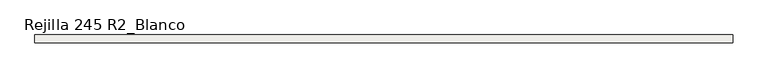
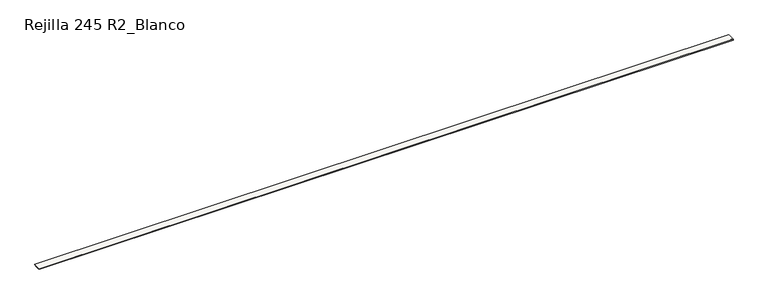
"""IFC4 building model written with IfcOpenShell, lengths in millimetres: slab geometry, ROSA GRES_245 R2_Blanco : Rejilla 245 R2_Blanco."""

from ifc_helpers import new_model, si_unit, frame, origin, place, context, project, spatial, polyline, outline, extrude, source, transform, mapped, element, save


def rejilla_245_r2_blanco_7187437d(model_context):
    return source(origin(), model_context, "Body", "SweptSolid", [
        extrude(outline(polyline([(369.5908797, 206.3460936), (369.5908797, 228.3460936), (614.5908797, 228.3460936), (614.5908797, 206.3460936), (572.3142119, 206.3460936), (561.3142119, 195.3460936), (422.8675475, 195.3460936), (411.8675475, 206.3460936), (369.5908797, 206.3460936)])), frame((0.0, 0.0, 0.0), z_axis=(1.0, 0.0, 0.0), x_axis=(0.0, 1.0, 0.0)), (0.0, 0.0, 1.0), 21639.1817594),
    ])


if __name__ == "__main__":
    model = new_model("IFC4")
    model_context = context("Model", 3, world=origin())
    ifc_project = project(units=[si_unit("LENGTHUNIT", "METRE", prefix="MILLI")], contexts=[model_context])
    site = spatial("IfcSite", under=ifc_project)
    building = spatial("IfcBuilding", under=site)
    placement = place(None, origin())
    rejilla_245_r2_blanco_shape = rejilla_245_r2_blanco_7187437d(model_context)
    element("IfcSlab", 1, ObjectType="ROSA GRES_245 R2_Blanco : Rejilla 245 R2_Blanco", at=placement, inside=building, context=model_context, shape_type="MappedRepresentation", body=[
        mapped(rejilla_245_r2_blanco_shape, transform((0.0, 0.0, 0.0), x_axis=(1.0, 0.0, 0.0), y_axis=(0.0, 1.0, 0.0), z_axis=(0.0, 0.0, 1.0))),
    ])
    save(model, "model.ifc")
